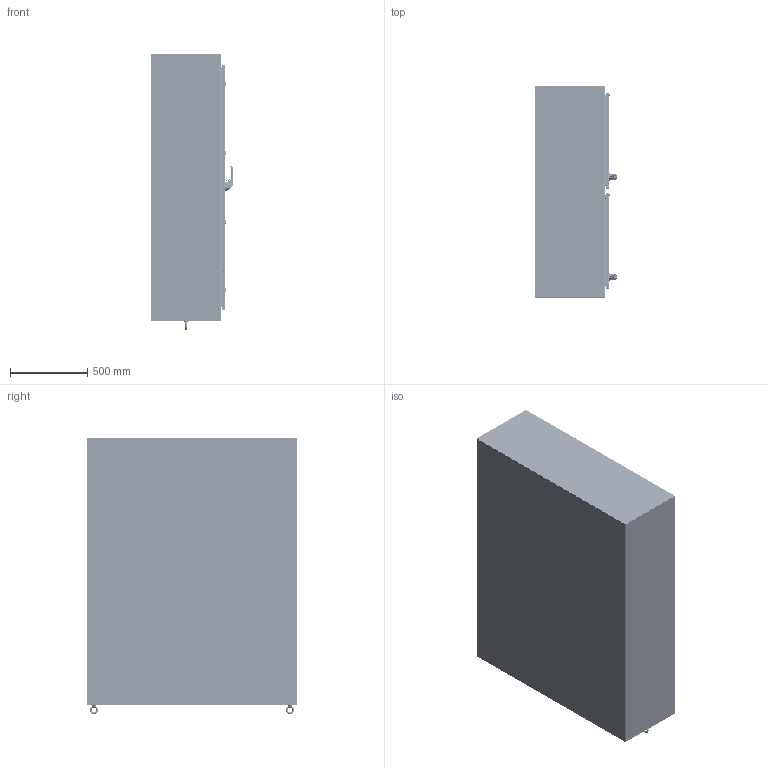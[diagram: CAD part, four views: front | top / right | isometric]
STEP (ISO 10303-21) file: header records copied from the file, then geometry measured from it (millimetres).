
FILE_DESCRIPTION((''),'2;1');
FILE_NAME('MODEL-462_ASM','2026-04-27T11:57:49',('andrew.knowlton'),('SAGINAW CONTROL & ENGINEERING'),'CREO PARAMETRIC BY PTC INC, 2021284','CREO PARAMETRIC BY PTC INC, 2021284','');
FILE_SCHEMA(('AUTOMOTIVE_DESIGN { 1 0 10303 214 1 1 1 1 }'));
Length unit declared in the file: inch
Products named in the file (122): MODEL-462-L-SD; MODEL-462-TP; MODEL-462-R-SD; MODEL-462-BTM; MODEL-462-RH-DR; 100837; 111267; 100882; 100953_SCREW_MTG; 100953_PADLOCK_CATCH; 100953_SCREW_LARGE; 100953_INSERT_SHAFT; 100953_INSERT_PCH; 100953_GASKET; 100953_O-RING; 100953_BASE; 100953_SPRING; 100953_HANDLE; 100953_CAM_SHAFT; 100953_HANDLE_ASM; 100953_CAM_ADAPTER; 100953_EARTH_NUT; 100953_FLANGE_NUT; 100953_CAM_NUT; 100953_CP_INSERT; 100953_SPRING_CAM; 100953_TORSION_SPRING; 100953_SCREW_INSERT; 100953_ASM; 102237; 100030; 102237_ASM; MODEL-462-ROD-RH-UPR; 128146; 128145; 128144; 102482; MODEL-462-ROD-RH-UPR_ASM; 128143; 112504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
Assembly tree (252 placements, depth 5):
  MODEL-462_ASM
    MODEL-462-L-SD
    MODEL-462-TP
    MODEL-462-R-SD
    MODEL-462-BTM
    MODEL-462-RH-DOOR-ASSY_ASM
      MODEL-462-RH-DR
      100837  x7
      111267
      100882  x12
      100953_ASM
        100953_SCREW_MTG
        100953_PADLOCK_CATCH
        100953_SCREW_LARGE  x2
        100953_INSERT_SHAFT
        100953_INSERT_PCH
        100953_GASKET
        100953_O-RING
        100953_BASE
        100953_SPRING
        100953_HANDLE_ASM
          100953_HANDLE
          100953_CAM_SHAFT
        100953_CAM_ADAPTER
        100953_EARTH_NUT
        100953_FLANGE_NUT
        100953_CAM_NUT
        100953_CP_INSERT
        100953_SPRING_CAM
        100953_TORSION_SPRING
        100953_SCREW_INSERT
      102237_ASM
        102237
        100030  x2
      MODEL-462-ROD-RH-UPR_ASM
        MODEL-462-ROD-RH-UPR
        128146
        128145
        128144
        102482  x2
      128143  x2
      112504  x2
      MODEL-462-ROD-RH-LWR_ASM
        MODEL-462-ROD-RH-LWR
        128146
        128145
        128144
        102482  x2
      MODEL-462-PR-GSKT-RH
      128258_ASM  x4
        128258
      126395  x4
      102483  x4
      101383_ASM  x4
        101383
        101383-STUD
      101221  x4
      125597
    MODEL-462-LH-DOOR-ASSY_ASM
      MODEL-462-LH-DR
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Bounding box: 535.27 x 1365.25 x 1788.36 mm (x, y, z)
Volume: 30974186.5 mm3; surface area: 22294179.7 mm2
Topology: 278 solids, 278 shells, 26724 faces, 67682 edges, 41548 vertices
Faces by surface type: plane 9079, cylinder 7034, bspline 5917, torus 2130, cone 1371, sphere 812, extrusion 381
Entity records: 822425 total; most frequent: CARTESIAN_POINT 373340, ORIENTED_EDGE 69484, DIRECTION 63279, PRESENTATION_STYLE_ASSIGNMENT 35551, STYLED_ITEM 35515, CURVE_STYLE 34742, EDGE_CURVE 34742, AXIS2_PLACEMENT_3D 23449
